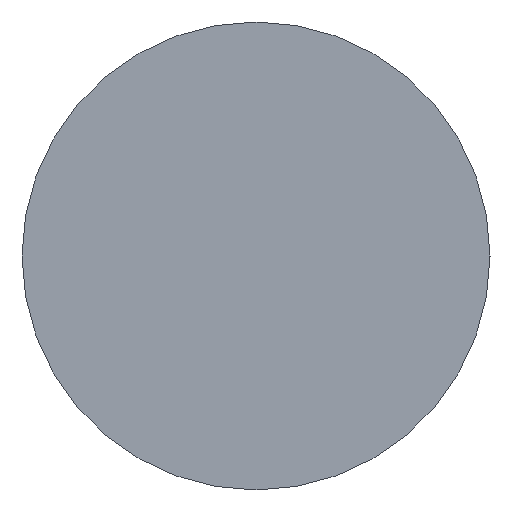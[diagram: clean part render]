
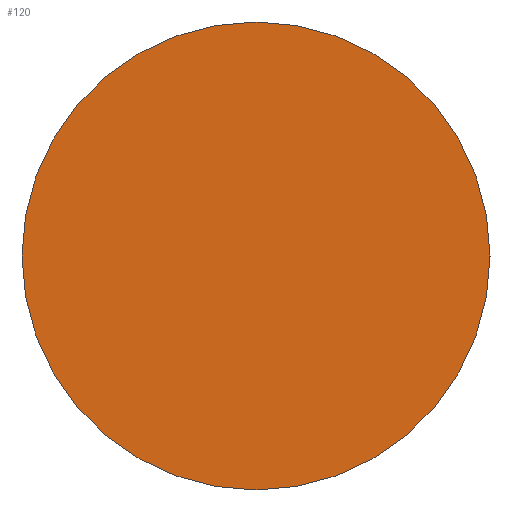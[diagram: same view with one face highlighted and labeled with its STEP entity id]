
A CAD part, left-side view. The second image highlights one B-rep face of the part: STEP entity #120.
In plain terms, the highlighted planar face has unit normal (-1, 0, 0).
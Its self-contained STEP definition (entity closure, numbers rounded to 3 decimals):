
#1=CARTESIAN_POINT('',(0.,0.,0.));
#2=DIRECTION('',(1.,0.,0.));
#3=DIRECTION('',(0.,-1.,0.));
#4=AXIS2_PLACEMENT_3D('',#1,#2,#3);
#6=CARTESIAN_POINT('',(0.,0.,0.));
#7=DIRECTION('',(1.,0.,0.));
#8=DIRECTION('',(0.,1.,0.));
#9=AXIS2_PLACEMENT_3D('',#6,#7,#8);
#85=CARTESIAN_POINT('',(0.,-5.,0.));
#86=CARTESIAN_POINT('',(0.,5.,0.));
#87=VERTEX_POINT('',#85);
#88=VERTEX_POINT('',#86);
#109=CARTESIAN_POINT('',(0.,0.,0.));
#110=DIRECTION('',(1.,0.,0.));
#111=DIRECTION('',(0.,-1.,0.));
#112=AXIS2_PLACEMENT_3D('',#109,#110,#111);
#113=PLANE('',#112);
#115=ORIENTED_EDGE('',*,*,#114,.T.);
#117=ORIENTED_EDGE('',*,*,#116,.T.);
#118=EDGE_LOOP('',(#115,#117));
#119=FACE_OUTER_BOUND('',#118,.F.);
#120=ADVANCED_FACE('',(#119),#113,.F.);
#5=CIRCLE('',#4,5.);
#10=CIRCLE('',#9,5.);
#114=EDGE_CURVE('',#87,#88,#5,.T.);
#116=EDGE_CURVE('',#88,#87,#10,.T.);
